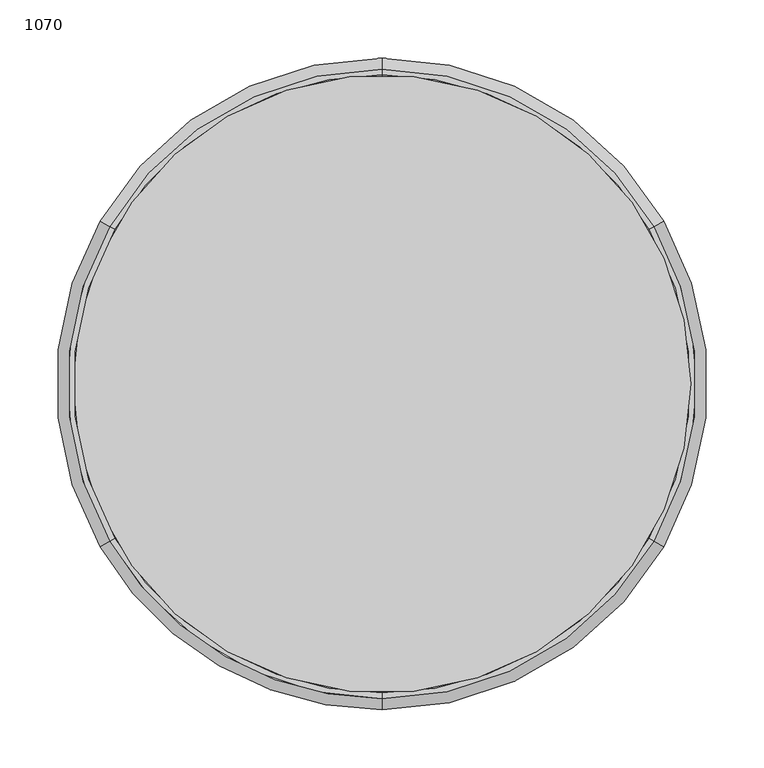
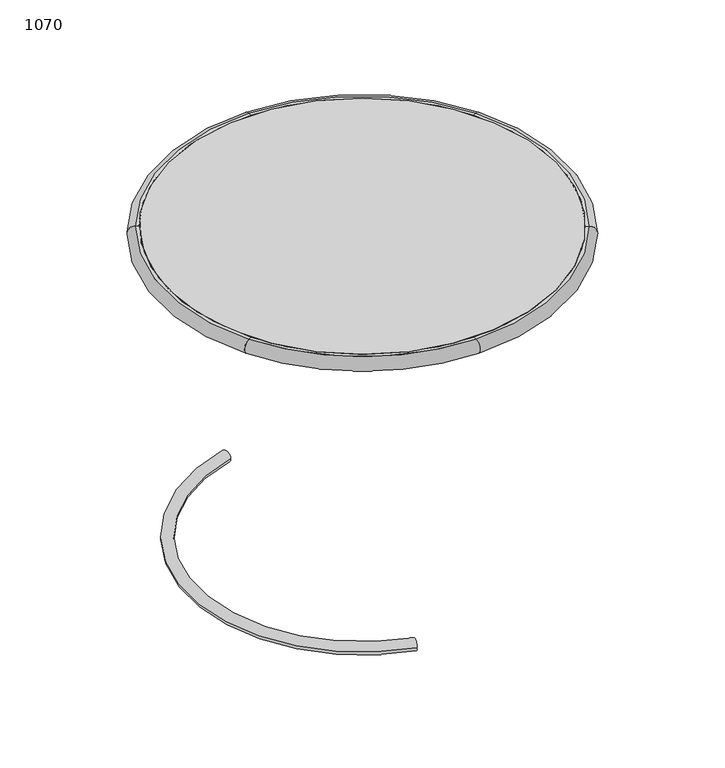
"""IFC4 building model written with IfcOpenShell, lengths in millimetres: proxy geometry, 1070."""

from ifc_helpers import new_model, si_unit, point, frame, origin, origin_2d, place, context, project, spatial, polyline, circle_curve, ellipse_curve, trimmed, segment, composite_curve, outline, extrude, source, transform, mapped, element, save
from ifc_brep_helpers import plane_surface, cylinder_surface, revolved_surface, advanced_brep


def proxy_1070_91a97d15(model_context):
    return source(origin(), model_context, "Body", "SolidModel", [
        advanced_brep(
        [(-233.7186058, 134.9375, -82.55), (-233.7186058, 134.9375, -101.6), (-233.7186058, -134.9375, -101.6), (-233.7186058, -134.9375, -82.55), (-229.5941599, -132.55625, -82.55), (-229.5941599, 132.55625, -82.55), (-229.5941599, -132.55625, -101.6), (-229.5941599, -132.55625, -92.075), (-226.8445292, -130.96875, -92.075), (-226.8445292, -130.96875, -85.725), (-229.5941599, -132.55625, -85.725), (-229.5941599, 132.55625, -92.075), (-226.8445292, 130.96875, -92.075), (-226.8445292, 130.96875, -85.725), (-229.5941599, 132.55625, -85.725), (-229.5941599, 132.55625, -101.6)],
        [
            (0, 1, circle_curve(frame((-233.7186058, 134.9375, -92.075), z_axis=(-0.5000000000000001, -0.8660254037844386, 0.0), x_axis=(-0.8660254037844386, 0.5000000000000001, 0.0)), 9.525)),
            (1, 2, circle_curve(frame((0.0, 0.0, -101.6), z_axis=(0.0, 0.0, 1.0), x_axis=(-0.8660254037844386, 0.5000000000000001, 0.0)), 269.875)),
            (2, 3, circle_curve(frame((-233.7186058, -134.9375, -92.075), z_axis=(-0.49999999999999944, 0.8660254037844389, 0.0), x_axis=(-0.8660254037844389, -0.49999999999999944, 0.0)), 9.525)),
            (3, 0, circle_curve(frame((0.0, 0.0, -82.55), z_axis=(0.0, 0.0, -1.0), x_axis=(-0.8660254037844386, 0.5000000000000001, 0.0)), 269.875)),
            (3, 4),
            (4, 5, circle_curve(frame((0.0, 0.0, -82.55), z_axis=(0.0, 0.0, -1.0), x_axis=(0.49999999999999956, -0.8660254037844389, 0.0)), 265.1125)),
            (5, 0),
            (2, 6),
            (6, 7),
            (7, 8),
            (8, 9),
            (9, 10),
            (10, 4),
            (7, 11, circle_curve(frame((0.0, 0.0, -92.075), z_axis=(0.0, 0.0, -1.0), x_axis=(0.49999999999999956, -0.8660254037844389, 0.0)), 265.1125)),
            (11, 12),
            (12, 8, circle_curve(frame((0.0, 0.0, -92.075), z_axis=(0.0, 0.0, 1.0), x_axis=(0.8660254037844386, -0.5000000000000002, 0.0)), 261.9375)),
            (12, 13),
            (13, 9, circle_curve(frame((0.0, 0.0, -85.725), z_axis=(0.0, 0.0, 1.0), x_axis=(0.8660254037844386, -0.5000000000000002, 0.0)), 261.9375)),
            (13, 14),
            (14, 10, circle_curve(frame((0.0, 0.0, -85.725), z_axis=(0.0, 0.0, 1.0), x_axis=(0.49999999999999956, -0.8660254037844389, 0.0)), 265.1125)),
            (6, 15, circle_curve(frame((0.0, 0.0, -101.6), z_axis=(0.0, 0.0, -1.0), x_axis=(0.49999999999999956, -0.8660254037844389, 0.0)), 265.1125)),
            (15, 11),
            (5, 14),
            (15, 1),
        ],
        [
            revolved_surface(trimmed(ellipse_curve(frame((-233.7186058, 134.9375, -92.075), z_axis=(0.5000000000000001, 0.8660254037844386, 0.0), x_axis=(-0.8660254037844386, 0.5000000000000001, 0.0)), 9.525, 9.525), [point((-233.7186058, 134.9375, -101.6))], [point((-233.7186058, 134.9375, -82.55))], True, "CARTESIAN"), (0.0, 0.0, -92.075), (0.0, 0.0, 1.0)),
            plane_surface(frame((-247.1230553, 3.3734375, -82.55), z_axis=(0.0, 0.0, 1.0), x_axis=(-0.8660254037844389, -0.4999999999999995, 0.0))),
            plane_surface(frame((-252.9660204, -146.05, -101.6), z_axis=(0.4999999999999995, -0.8660254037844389, 0.0), x_axis=(0.8660254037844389, 0.4999999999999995, 0.0))),
            plane_surface(frame((-226.8445292, -130.96875, -92.075), z_axis=(0.0, 0.0, -1.0), x_axis=(0.8660254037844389, 0.4999999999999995, 0.0))),
            revolved_surface(polyline([(226.84452920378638, -130.96875000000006, -92.075), (226.84452920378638, -130.96875000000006, -85.725)]), (0.0, 0.0, -88.9), (0.0, 0.0, -1.0)),
            plane_surface(frame((-229.5941599, -132.55625, -85.725), z_axis=(0.0, 0.0, 1.0), x_axis=(-0.8660254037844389, -0.4999999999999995, 0.0))),
            revolved_surface(polyline([(132.5562499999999, -229.59415986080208, -92.075), (132.5562499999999, -229.59415986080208, -101.6)]), (0.0, 0.0, -101.6), (0.0, 0.0, 1.0)),
            plane_surface(frame((-229.5941599, 132.55625, -101.6), z_axis=(0.5000000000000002, 0.8660254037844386, 0.0), x_axis=(-0.8660254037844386, 0.5000000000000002, 0.0))),
            revolved_surface(polyline([(132.5562499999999, -229.59415986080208, -82.55), (132.5562499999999, -229.59415986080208, -85.725)]), (0.0, 0.0, -101.6), (0.0, 0.0, 1.0)),
            plane_surface(frame((-247.1230553, 3.3734375, -101.6), z_axis=(0.0, 0.0, -1.0), x_axis=(-0.8660254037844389, -0.4999999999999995, 0.0))),
        ],
        [
            (0, [[1, 2, 3, 4]]),
            (1, [[-4, 5, 6, 7]]),
            (2, [[-3, 8, 9, 10, 11, 12, 13, -5]]),
            (3, [[-10, 14, 15, 16]]),
            (4, [[-11, -16, 17, 18]]),
            (5, [[-12, -18, 19, 20]]),
            (6, [[-14, -9, 21, 22]]),
            (7, [[-1, -7, 23, -19, -17, -15, -22, 24]]),
            (8, [[-20, -23, -6, -13]]),
            (9, [[-2, -24, -21, -8]]),
        ],
    ),
        extrude(outline(composite_curve([segment(trimmed(circle_curve(origin_2d(), 265.1125), [point((265.1125, 0.0))], [point((-265.1125, 0.0))], False, "CARTESIAN"), True, "CONTINUOUS"), segment(trimmed(circle_curve(origin_2d(), 265.1125), [point((-265.1125, 0.0))], [point((265.1125, 0.0))], False, "CARTESIAN"), True, "CONTINUOUS")], self_intersect=False)), frame((0.0, 0.0, -83.34375), z_axis=(0.0, 0.0, 1.0), x_axis=(1.0, 0.0, 0.0)), (0.0, 0.0, 1.0), 0.79375),
        extrude(outline(composite_curve([segment(trimmed(circle_curve(origin_2d(), 265.1125), [point((265.1125, 0.0))], [point((-265.1125, 0.0))], False, "CARTESIAN"), True, "CONTINUOUS"), segment(trimmed(circle_curve(origin_2d(), 265.1125), [point((-265.1125, 0.0))], [point((265.1125, 0.0))], False, "CARTESIAN"), True, "CONTINUOUS")], self_intersect=False)), frame((0.0, 0.0, -101.6), z_axis=(0.0, 0.0, 1.0), x_axis=(1.0, 0.0, 0.0)), (0.0, 0.0, 1.0), 0.79375),
        advanced_brep(
        [(0.0, 269.875, -82.55), (0.0, 269.875, -101.6), (-233.7186058, 134.9375, -101.6), (-233.7186058, 134.9375, -82.55), (-229.5941599, 132.55625, -82.55), (0.0, 265.1125, -82.55), (-229.5941599, 132.55625, -101.6), (-229.5941599, 132.55625, -92.075), (-226.8445292, 130.96875, -92.075), (-226.8445292, 130.96875, -85.725), (-229.5941599, 132.55625, -85.725), (0.0, 265.1125, -92.075), (0.0, 261.9375, -92.075), (0.0, 261.9375, -85.725), (0.0, 265.1125, -85.725), (0.0, 265.1125, -101.6)],
        [
            (0, 1, circle_curve(frame((0.0, 269.875, -92.075), z_axis=(-1.0, 0.0, 0.0), x_axis=(0.0, 1.0, 0.0)), 9.525)),
            (1, 2, circle_curve(frame((0.0, 0.0, -101.6), z_axis=(0.0, 0.0, 1.0), x_axis=(0.0, 1.0, 0.0)), 269.875)),
            (2, 3, circle_curve(frame((-233.7186058, 134.9375, -92.075), z_axis=(0.5000000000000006, 0.8660254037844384, 0.0), x_axis=(-0.8660254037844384, 0.5000000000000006, 0.0)), 9.525)),
            (3, 0, circle_curve(frame((0.0, 0.0, -82.55), z_axis=(0.0, 0.0, -1.0), x_axis=(0.0, 1.0, 0.0)), 269.875)),
            (3, 4),
            (4, 5, circle_curve(frame((0.0, 0.0, -82.55), z_axis=(0.0, 0.0, -1.0), x_axis=(-0.5000000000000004, -0.8660254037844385, 0.0)), 265.1125)),
            (5, 0),
            (2, 6),
            (6, 7),
            (7, 8),
            (8, 9),
            (9, 10),
            (10, 4),
            (7, 11, circle_curve(frame((0.0, 0.0, -92.075), z_axis=(0.0, 0.0, -1.0), x_axis=(-0.5000000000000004, -0.8660254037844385, 0.0)), 265.1125)),
            (11, 12),
            (12, 8, circle_curve(frame((0.0, 0.0, -92.075), z_axis=(0.0, 0.0, 1.0), x_axis=(0.0, -1.0, 0.0)), 261.9375)),
            (12, 13),
            (13, 9, circle_curve(frame((0.0, 0.0, -85.725), z_axis=(0.0, 0.0, 1.0), x_axis=(0.0, -1.0, 0.0)), 261.9375)),
            (13, 14),
            (14, 10, circle_curve(frame((0.0, 0.0, -85.725), z_axis=(0.0, 0.0, 1.0), x_axis=(-0.5000000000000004, -0.8660254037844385, 0.0)), 265.1125)),
            (6, 15, circle_curve(frame((0.0, 0.0, -101.6), z_axis=(0.0, 0.0, -1.0), x_axis=(-0.5000000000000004, -0.8660254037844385, 0.0)), 265.1125)),
            (15, 11),
            (5, 14),
            (15, 1),
        ],
        [
            revolved_surface(trimmed(ellipse_curve(frame((0.0, 269.875, -92.075), z_axis=(1.0, 0.0, 0.0), x_axis=(0.0, 1.0, 0.0)), 9.525, 9.525), [point((0.0, 269.875, -101.6))], [point((0.0, 269.875, -82.55))], True, "CARTESIAN"), (0.0, 0.0, -92.075), (0.0, 0.0, 1.0)),
            plane_surface(frame((-120.6400451, 215.7015625, -82.55), z_axis=(0.0, 0.0, 1.0), x_axis=(-0.8660254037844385, 0.5000000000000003, 0.0))),
            plane_surface(frame((-252.9660204, 146.05, -101.6), z_axis=(-0.5000000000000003, -0.8660254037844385, 0.0), x_axis=(0.8660254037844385, -0.5000000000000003, 0.0))),
            plane_surface(frame((-226.8445292, 130.96875, -92.075), z_axis=(0.0, 0.0, -1.0), x_axis=(0.8660254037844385, -0.5000000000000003, 0.0))),
            revolved_surface(polyline([(0.0, -261.9375, -92.075), (0.0, -261.9375, -85.725)]), (0.0, 0.0, -88.9), (0.0, 0.0, -1.0)),
            plane_surface(frame((-229.5941599, 132.55625, -85.725), z_axis=(0.0, 0.0, 1.0), x_axis=(-0.8660254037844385, 0.5000000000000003, 0.0))),
            revolved_surface(polyline([(-132.55625000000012, -229.59415986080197, -92.075), (-132.55625000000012, -229.59415986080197, -101.6)]), (0.0, 0.0, -101.6), (0.0, 0.0, 1.0)),
            plane_surface(frame((0.0, 265.1125, -101.6), z_axis=(1.0, 0.0, 0.0), x_axis=(0.0, 1.0, 0.0))),
            revolved_surface(polyline([(-132.55625000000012, -229.59415986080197, -82.55), (-132.55625000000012, -229.59415986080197, -85.725)]), (0.0, 0.0, -101.6), (0.0, 0.0, 1.0)),
            plane_surface(frame((-120.6400451, 215.7015625, -101.6), z_axis=(0.0, 0.0, -1.0), x_axis=(-0.8660254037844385, 0.5000000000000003, 0.0))),
        ],
        [
            (0, [[1, 2, 3, 4]]),
            (1, [[-4, 5, 6, 7]]),
            (2, [[-3, 8, 9, 10, 11, 12, 13, -5]]),
            (3, [[-10, 14, 15, 16]]),
            (4, [[-11, -16, 17, 18]]),
            (5, [[-12, -18, 19, 20]]),
            (6, [[-14, -9, 21, 22]]),
            (7, [[-1, -7, 23, -19, -17, -15, -22, 24]]),
            (8, [[-20, -23, -6, -13]]),
            (9, [[-2, -24, -21, -8]]),
        ],
    ),
        advanced_brep(
        [(-233.7186058, -134.9375, -82.55), (-233.7186058, -134.9375, -101.6), (0.0, -269.875, -101.6), (0.0, -269.875, -82.55), (0.0, -265.1125, -82.55), (-229.5941599, -132.55625, -82.55), (0.0, -265.1125, -101.6), (0.0, -265.1125, -92.075), (0.0, -261.9375, -92.075), (0.0, -261.9375, -85.725), (0.0, -265.1125, -85.725), (-229.5941599, -132.55625, -92.075), (-226.8445292, -130.96875, -92.075), (-226.8445292, -130.96875, -85.725), (-229.5941599, -132.55625, -85.725), (-229.5941599, -132.55625, -101.6)],
        [
            (0, 1, circle_curve(frame((-233.7186058, -134.9375, -92.075), z_axis=(0.4999999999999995, -0.8660254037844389, 0.0), x_axis=(-0.8660254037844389, -0.4999999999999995, 0.0)), 9.525)),
            (1, 2, circle_curve(frame((0.0, 0.0, -101.6), z_axis=(0.0, 0.0, 1.0), x_axis=(-0.8660254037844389, -0.4999999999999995, 0.0)), 269.875)),
            (2, 3, circle_curve(frame((0.0, -269.875, -92.075), z_axis=(-1.0, 0.0, 0.0), x_axis=(0.0, -1.0, 0.0)), 9.525)),
            (3, 0, circle_curve(frame((0.0, 0.0, -82.55), z_axis=(0.0, 0.0, -1.0), x_axis=(-0.8660254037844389, -0.4999999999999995, 0.0)), 269.875)),
            (3, 4),
            (4, 5, circle_curve(frame((0.0, 0.0, -82.55), z_axis=(0.0, 0.0, -1.0), x_axis=(1.0, 0.0, 0.0)), 265.1125)),
            (5, 0),
            (2, 6),
            (6, 7),
            (7, 8),
            (8, 9),
            (9, 10),
            (10, 4),
            (7, 11, circle_curve(frame((0.0, 0.0, -92.075), z_axis=(0.0, 0.0, -1.0), x_axis=(1.0, 0.0, 0.0)), 265.1125)),
            (11, 12),
            (12, 8, circle_curve(frame((0.0, 0.0, -92.075), z_axis=(0.0, 0.0, 1.0), x_axis=(0.8660254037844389, 0.4999999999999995, 0.0)), 261.9375)),
            (12, 13),
            (13, 9, circle_curve(frame((0.0, 0.0, -85.725), z_axis=(0.0, 0.0, 1.0), x_axis=(0.8660254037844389, 0.4999999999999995, 0.0)), 261.9375)),
            (13, 14),
            (14, 10, circle_curve(frame((0.0, 0.0, -85.725), z_axis=(0.0, 0.0, 1.0), x_axis=(1.0, 0.0, 0.0)), 265.1125)),
            (6, 15, circle_curve(frame((0.0, 0.0, -101.6), z_axis=(0.0, 0.0, -1.0), x_axis=(1.0, 0.0, 0.0)), 265.1125)),
            (15, 11),
            (5, 14),
            (15, 1),
        ],
        [
            revolved_surface(trimmed(ellipse_curve(frame((-233.7186058, -134.9375, -92.075), z_axis=(-0.4999999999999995, 0.8660254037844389, 0.0), x_axis=(-0.8660254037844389, -0.4999999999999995, 0.0)), 9.525, 9.525), [point((-233.7186058, -134.9375, -101.6))], [point((-233.7186058, -134.9375, -82.55))], True, "CARTESIAN"), (0.0, 0.0, -92.075), (0.0, 0.0, 1.0)),
            plane_surface(frame((-126.4830102, -212.328125, -82.55), z_axis=(0.0, 0.0, 1.0), x_axis=(0.0, -1.0, 0.0))),
            plane_surface(frame((0.0, -292.1, -101.6), z_axis=(1.0, 0.0, 0.0), x_axis=(0.0, 1.0, 0.0))),
            plane_surface(frame((0.0, -261.9375, -92.075), z_axis=(0.0, 0.0, -1.0), x_axis=(0.0, 1.0, 0.0))),
            revolved_surface(polyline([(226.84452920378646, 130.96874999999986, -92.075), (226.84452920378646, 130.96874999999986, -85.725)]), (0.0, 0.0, -88.9), (0.0, 0.0, -1.0)),
            plane_surface(frame((0.0, -265.1125, -85.725), z_axis=(0.0, 0.0, 1.0), x_axis=(0.0, -1.0, 0.0))),
            revolved_surface(polyline([(265.1125, 0.0, -92.075), (265.1125, 0.0, -101.6)]), (0.0, 0.0, -101.6), (0.0, 0.0, 1.0)),
            plane_surface(frame((-229.5941599, -132.55625, -101.6), z_axis=(-0.4999999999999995, 0.8660254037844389, 0.0), x_axis=(-0.8660254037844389, -0.4999999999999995, 0.0))),
            revolved_surface(polyline([(265.1125, 0.0, -82.55), (265.1125, 0.0, -85.725)]), (0.0, 0.0, -101.6), (0.0, 0.0, 1.0)),
            plane_surface(frame((-126.4830102, -212.328125, -101.6), z_axis=(0.0, 0.0, -1.0), x_axis=(0.0, -1.0, 0.0))),
        ],
        [
            (0, [[1, 2, 3, 4]]),
            (1, [[-4, 5, 6, 7]]),
            (2, [[-3, 8, 9, 10, 11, 12, 13, -5]]),
            (3, [[-10, 14, 15, 16]]),
            (4, [[-11, -16, 17, 18]]),
            (5, [[-12, -18, 19, 20]]),
            (6, [[-14, -9, 21, 22]]),
            (7, [[-1, -7, 23, -19, -17, -15, -22, 24]]),
            (8, [[-20, -23, -6, -13]]),
            (9, [[-2, -24, -21, -8]]),
        ],
    ),
        advanced_brep(
        [(233.7186058, -134.9375, -82.55), (233.7186058, -134.9375, -101.6), (233.7186058, 134.9375, -101.6), (233.7186058, 134.9375, -82.55), (229.5941599, 132.55625, -82.55), (229.5941599, -132.55625, -82.55), (229.5941599, 132.55625, -101.6), (229.5941599, 132.55625, -92.075), (226.8445292, 130.96875, -92.075), (226.8445292, 130.96875, -85.725), (229.5941599, 132.55625, -85.725), (229.5941599, -132.55625, -92.075), (226.8445292, -130.96875, -92.075), (226.8445292, -130.96875, -85.725), (229.5941599, -132.55625, -85.725), (229.5941599, -132.55625, -101.6)],
        [
            (0, 1, circle_curve(frame((233.7186058, -134.9375, -92.075), z_axis=(0.500000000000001, 0.866025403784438, 0.0), x_axis=(0.866025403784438, -0.500000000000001, 0.0)), 9.525)),
            (1, 2, circle_curve(frame((0.0, 0.0, -101.6), z_axis=(0.0, 0.0, 1.0), x_axis=(0.8660254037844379, -0.5000000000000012, 0.0)), 269.875)),
            (2, 3, circle_curve(frame((233.7186058, 134.9375, -92.075), z_axis=(0.4999999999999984, -0.8660254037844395, 0.0), x_axis=(0.8660254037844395, 0.4999999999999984, 0.0)), 9.525)),
            (3, 0, circle_curve(frame((0.0, 0.0, -82.55), z_axis=(0.0, 0.0, -1.0), x_axis=(0.8660254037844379, -0.5000000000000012, 0.0)), 269.875)),
            (3, 4),
            (4, 5, circle_curve(frame((0.0, 0.0, -82.55), z_axis=(0.0, 0.0, -1.0), x_axis=(-0.4999999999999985, 0.8660254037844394, 0.0)), 265.1125)),
            (5, 0),
            (2, 6),
            (6, 7),
            (7, 8),
            (8, 9),
            (9, 10),
            (10, 4),
            (7, 11, circle_curve(frame((0.0, 0.0, -92.075), z_axis=(0.0, 0.0, -1.0), x_axis=(-0.4999999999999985, 0.8660254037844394, 0.0)), 265.1125)),
            (11, 12),
            (12, 8, circle_curve(frame((0.0, 0.0, -92.075), z_axis=(0.0, 0.0, 1.0), x_axis=(-0.8660254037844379, 0.500000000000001, 0.0)), 261.9375)),
            (12, 13),
            (13, 9, circle_curve(frame((0.0, 0.0, -85.725), z_axis=(0.0, 0.0, 1.0), x_axis=(-0.8660254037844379, 0.500000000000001, 0.0)), 261.9375)),
            (13, 14),
            (14, 10, circle_curve(frame((0.0, 0.0, -85.725), z_axis=(0.0, 0.0, 1.0), x_axis=(-0.4999999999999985, 0.8660254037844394, 0.0)), 265.1125)),
            (6, 15, circle_curve(frame((0.0, 0.0, -101.6), z_axis=(0.0, 0.0, -1.0), x_axis=(-0.4999999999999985, 0.8660254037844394, 0.0)), 265.1125)),
            (15, 11),
            (5, 14),
            (15, 1),
        ],
        [
            revolved_surface(trimmed(ellipse_curve(frame((233.7186058, -134.9375, -92.075), z_axis=(-0.5000000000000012, -0.8660254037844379, 0.0), x_axis=(0.8660254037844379, -0.5000000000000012, 0.0)), 9.525, 9.525), [point((233.7186058, -134.9375, -101.6))], [point((233.7186058, -134.9375, -82.55))], True, "CARTESIAN"), (0.0, 0.0, -92.075), (0.0, 0.0, 1.0)),
            plane_surface(frame((247.1230553, -3.3734375, -82.55), z_axis=(0.0, 0.0, 1.0), x_axis=(0.8660254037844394, 0.49999999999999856, 0.0))),
            plane_surface(frame((252.9660204, 146.05, -101.6), z_axis=(-0.49999999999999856, 0.8660254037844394, 0.0), x_axis=(-0.8660254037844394, -0.49999999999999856, 0.0))),
            plane_surface(frame((226.8445292, 130.96875, -92.075), z_axis=(0.0, 0.0, -1.0), x_axis=(-0.8660254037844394, -0.49999999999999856, 0.0))),
            revolved_surface(polyline([(-226.8445292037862, 130.96875000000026, -92.075), (-226.8445292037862, 130.96875000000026, -85.725)]), (0.0, 0.0, -88.9), (0.0, 0.0, -1.0)),
            plane_surface(frame((229.5941599, 132.55625, -85.725), z_axis=(0.0, 0.0, 1.0), x_axis=(0.8660254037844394, 0.49999999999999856, 0.0))),
            revolved_surface(polyline([(-132.5562499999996, 229.5941598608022, -92.075), (-132.5562499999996, 229.5941598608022, -101.6)]), (0.0, 0.0, -101.6), (0.0, 0.0, 1.0)),
            plane_surface(frame((229.5941599, -132.55625, -101.6), z_axis=(-0.500000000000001, -0.866025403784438, 0.0), x_axis=(0.866025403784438, -0.500000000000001, 0.0))),
            revolved_surface(polyline([(-132.5562499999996, 229.5941598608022, -82.55), (-132.5562499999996, 229.5941598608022, -85.725)]), (0.0, 0.0, -101.6), (0.0, 0.0, 1.0)),
            plane_surface(frame((247.1230553, -3.3734375, -101.6), z_axis=(0.0, 0.0, -1.0), x_axis=(0.8660254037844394, 0.49999999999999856, 0.0))),
        ],
        [
            (0, [[1, 2, 3, 4]]),
            (1, [[-4, 5, 6, 7]]),
            (2, [[-3, 8, 9, 10, 11, 12, 13, -5]]),
            (3, [[-10, 14, 15, 16]]),
            (4, [[-11, -16, 17, 18]]),
            (5, [[-12, -18, 19, 20]]),
            (6, [[-14, -9, 21, 22]]),
            (7, [[-1, -7, 23, -19, -17, -15, -22, 24]]),
            (8, [[-20, -23, -6, -13]]),
            (9, [[-2, -24, -21, -8]]),
        ],
    ),
        advanced_brep(
        [(233.7186058, 134.9375, -82.55), (233.7186058, 134.9375, -101.6), (0.0, 269.875, -101.6), (0.0, 269.875, -82.55), (0.0, 265.1125, -82.55), (229.5941599, 132.55625, -82.55), (0.0, 265.1125, -101.6), (0.0, 265.1125, -92.075), (0.0, 261.9375, -92.075), (0.0, 261.9375, -85.725), (0.0, 265.1125, -85.725), (229.5941599, 132.55625, -92.075), (226.8445292, 130.96875, -92.075), (226.8445292, 130.96875, -85.725), (229.5941599, 132.55625, -85.725), (229.5941599, 132.55625, -101.6)],
        [
            (0, 1, circle_curve(frame((233.7186058, 134.9375, -92.075), z_axis=(-0.5000000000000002, 0.8660254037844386, 0.0), x_axis=(0.8660254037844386, 0.5000000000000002, 0.0)), 9.525)),
            (1, 2, circle_curve(frame((0.0, 0.0, -101.6), z_axis=(0.0, 0.0, 1.0), x_axis=(0.8660254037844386, 0.5000000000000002, 0.0)), 269.875)),
            (2, 3, circle_curve(frame((0.0, 269.875, -92.075), z_axis=(1.0, 0.0, 0.0), x_axis=(0.0, 1.0, 0.0)), 9.525)),
            (3, 0, circle_curve(frame((0.0, 0.0, -82.55), z_axis=(0.0, 0.0, -1.0), x_axis=(0.8660254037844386, 0.5000000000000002, 0.0)), 269.875)),
            (3, 4),
            (4, 5, circle_curve(frame((0.0, 0.0, -82.55), z_axis=(0.0, 0.0, -1.0), x_axis=(-1.0, 0.0, 0.0)), 265.1125)),
            (5, 0),
            (2, 6),
            (6, 7),
            (7, 8),
            (8, 9),
            (9, 10),
            (10, 4),
            (7, 11, circle_curve(frame((0.0, 0.0, -92.075), z_axis=(0.0, 0.0, -1.0), x_axis=(-1.0, 0.0, 0.0)), 265.1125)),
            (11, 12),
            (12, 8, circle_curve(frame((0.0, 0.0, -92.075), z_axis=(0.0, 0.0, 1.0), x_axis=(-0.8660254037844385, -0.5000000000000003, 0.0)), 261.9375)),
            (12, 13),
            (13, 9, circle_curve(frame((0.0, 0.0, -85.725), z_axis=(0.0, 0.0, 1.0), x_axis=(-0.8660254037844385, -0.5000000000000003, 0.0)), 261.9375)),
            (13, 14),
            (14, 10, circle_curve(frame((0.0, 0.0, -85.725), z_axis=(0.0, 0.0, 1.0), x_axis=(-1.0, 0.0, 0.0)), 265.1125)),
            (6, 15, circle_curve(frame((0.0, 0.0, -101.6), z_axis=(0.0, 0.0, -1.0), x_axis=(-1.0, 0.0, 0.0)), 265.1125)),
            (15, 11),
            (5, 14),
            (15, 1),
        ],
        [
            revolved_surface(trimmed(ellipse_curve(frame((233.7186058, 134.9375, -92.075), z_axis=(0.5000000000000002, -0.8660254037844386, 0.0), x_axis=(0.8660254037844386, 0.5000000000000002, 0.0)), 9.525, 9.525), [point((233.7186058, 134.9375, -101.6))], [point((233.7186058, 134.9375, -82.55))], True, "CARTESIAN"), (0.0, 0.0, -92.075), (0.0, 0.0, 1.0)),
            plane_surface(frame((126.4830102, 212.328125, -82.55), z_axis=(0.0, 0.0, 1.0), x_axis=(0.0, 1.0, 0.0))),
            plane_surface(frame((0.0, 292.1, -101.6), z_axis=(-1.0, 0.0, 0.0), x_axis=(0.0, -1.0, 0.0))),
            plane_surface(frame((0.0, 261.9375, -92.075), z_axis=(0.0, 0.0, -1.0), x_axis=(0.0, -1.0, 0.0))),
            revolved_surface(polyline([(-226.84452920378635, -130.96875000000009, -92.075), (-226.84452920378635, -130.96875000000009, -85.725)]), (0.0, 0.0, -88.9), (0.0, 0.0, -1.0)),
            plane_surface(frame((0.0, 265.1125, -85.725), z_axis=(0.0, 0.0, 1.0), x_axis=(0.0, 1.0, 0.0))),
            revolved_surface(polyline([(-265.1125, 0.0, -92.075), (-265.1125, 0.0, -101.6)]), (0.0, 0.0, -101.6), (0.0, 0.0, 1.0)),
            plane_surface(frame((229.5941599, 132.55625, -101.6), z_axis=(0.5000000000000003, -0.8660254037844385, 0.0), x_axis=(0.8660254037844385, 0.5000000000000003, 0.0))),
            revolved_surface(polyline([(-265.1125, 0.0, -82.55), (-265.1125, 0.0, -85.725)]), (0.0, 0.0, -101.6), (0.0, 0.0, 1.0)),
            plane_surface(frame((126.4830102, 212.328125, -101.6), z_axis=(0.0, 0.0, -1.0), x_axis=(0.0, 1.0, 0.0))),
        ],
        [
            (0, [[1, 2, 3, 4]]),
            (1, [[-4, 5, 6, 7]]),
            (2, [[-3, 8, 9, 10, 11, 12, 13, -5]]),
            (3, [[-10, 14, 15, 16]]),
            (4, [[-11, -16, 17, 18]]),
            (5, [[-12, -18, 19, 20]]),
            (6, [[-14, -9, 21, 22]]),
            (7, [[-1, -7, 23, -19, -17, -15, -22, 24]]),
            (8, [[-20, -23, -6, -13]]),
            (9, [[-2, -24, -21, -8]]),
        ],
    ),
        advanced_brep(
        [(0.0, -269.875, -82.55), (0.0, -269.875, -101.6), (233.7186058, -134.9375, -101.6), (233.7186058, -134.9375, -82.55), (229.5941599, -132.55625, -82.55), (0.0, -265.1125, -82.55), (229.5941599, -132.55625, -101.6), (229.5941599, -132.55625, -92.075), (226.8445292, -130.96875, -92.075), (226.8445292, -130.96875, -85.725), (229.5941599, -132.55625, -85.725), (0.0, -265.1125, -92.075), (0.0, -261.9375, -92.075), (0.0, -261.9375, -85.725), (0.0, -265.1125, -85.725), (0.0, -265.1125, -101.6)],
        [
            (0, 1, circle_curve(frame((0.0, -269.875, -92.075), z_axis=(1.0, 0.0, 0.0), x_axis=(0.0, -1.0, 0.0)), 9.525)),
            (1, 2, circle_curve(frame((0.0, 0.0, -101.6), z_axis=(0.0, 0.0, 1.0), x_axis=(0.0, -1.0, 0.0)), 269.875)),
            (2, 3, circle_curve(frame((233.7186058, -134.9375, -92.075), z_axis=(-0.5000000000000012, -0.8660254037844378, 0.0), x_axis=(0.8660254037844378, -0.5000000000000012, 0.0)), 9.525)),
            (3, 0, circle_curve(frame((0.0, 0.0, -82.55), z_axis=(0.0, 0.0, -1.0), x_axis=(0.0, -1.0, 0.0)), 269.875)),
            (3, 4),
            (4, 5, circle_curve(frame((0.0, 0.0, -82.55), z_axis=(0.0, 0.0, -1.0), x_axis=(0.5000000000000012, 0.8660254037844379, 0.0)), 265.1125)),
            (5, 0),
            (2, 6),
            (6, 7),
            (7, 8),
            (8, 9),
            (9, 10),
            (10, 4),
            (7, 11, circle_curve(frame((0.0, 0.0, -92.075), z_axis=(0.0, 0.0, -1.0), x_axis=(0.5000000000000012, 0.8660254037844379, 0.0)), 265.1125)),
            (11, 12),
            (12, 8, circle_curve(frame((0.0, 0.0, -92.075), z_axis=(0.0, 0.0, 1.0), x_axis=(0.0, 0.9999999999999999, 0.0)), 261.9375)),
            (12, 13),
            (13, 9, circle_curve(frame((0.0, 0.0, -85.725), z_axis=(0.0, 0.0, 1.0), x_axis=(0.0, 0.9999999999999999, 0.0)), 261.9375)),
            (13, 14),
            (14, 10, circle_curve(frame((0.0, 0.0, -85.725), z_axis=(0.0, 0.0, 1.0), x_axis=(0.5000000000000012, 0.8660254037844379, 0.0)), 265.1125)),
            (6, 15, circle_curve(frame((0.0, 0.0, -101.6), z_axis=(0.0, 0.0, -1.0), x_axis=(0.5000000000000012, 0.8660254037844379, 0.0)), 265.1125)),
            (15, 11),
            (5, 14),
            (15, 1),
        ],
        [
            revolved_surface(trimmed(ellipse_curve(frame((0.0, -269.875, -92.075), z_axis=(-1.0, 0.0, 0.0), x_axis=(0.0, -1.0, 0.0)), 9.525, 9.525), [point((0.0, -269.875, -101.6))], [point((0.0, -269.875, -82.55))], True, "CARTESIAN"), (0.0, 0.0, -92.075), (0.0, 0.0, 1.0)),
            plane_surface(frame((120.6400451, -215.7015625, -82.55), z_axis=(0.0, 0.0, 1.0), x_axis=(0.8660254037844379, -0.5000000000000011, 0.0))),
            plane_surface(frame((252.9660204, -146.05, -101.6), z_axis=(0.5000000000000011, 0.8660254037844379, 0.0), x_axis=(-0.8660254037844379, 0.5000000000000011, 0.0))),
            plane_surface(frame((226.8445292, -130.96875, -92.075), z_axis=(0.0, 0.0, -1.0), x_axis=(-0.8660254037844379, 0.5000000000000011, 0.0))),
            revolved_surface(polyline([(0.0, 261.93749999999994, -92.075), (0.0, 261.93749999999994, -85.725)]), (0.0, 0.0, -88.9), (0.0, 0.0, -0.9999999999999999)),
            plane_surface(frame((229.5941599, -132.55625, -85.725), z_axis=(0.0, 0.0, 1.0), x_axis=(0.8660254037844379, -0.5000000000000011, 0.0))),
            revolved_surface(polyline([(132.55625000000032, 229.59415986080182, -92.075), (132.55625000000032, 229.59415986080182, -101.6)]), (0.0, 0.0, -101.6), (0.0, 0.0, 1.0)),
            plane_surface(frame((0.0, -265.1125, -101.6), z_axis=(-1.0, 0.0, 0.0), x_axis=(0.0, -1.0, 0.0))),
            revolved_surface(polyline([(132.55625000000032, 229.59415986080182, -82.55), (132.55625000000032, 229.59415986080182, -85.725)]), (0.0, 0.0, -101.6), (0.0, 0.0, 1.0)),
            plane_surface(frame((120.6400451, -215.7015625, -101.6), z_axis=(0.0, 0.0, -1.0), x_axis=(0.8660254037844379, -0.5000000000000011, 0.0))),
        ],
        [
            (0, [[1, 2, 3, 4]]),
            (1, [[-4, 5, 6, 7]]),
            (2, [[-3, 8, 9, 10, 11, 12, 13, -5]]),
            (3, [[-10, 14, 15, 16]]),
            (4, [[-11, -16, 17, 18]]),
            (5, [[-12, -18, 19, 20]]),
            (6, [[-14, -9, 21, 22]]),
            (7, [[-1, -7, 23, -19, -17, -15, -22, 24]]),
            (8, [[-20, -23, -6, -13]]),
            (9, [[-2, -24, -21, -8]]),
        ],
    ),
        advanced_brep(
        [(-190.5, 0.0, -107.15625), (-190.5, 0.0, -101.6), (190.5, 0.0, -101.6), (190.5, 0.0, -107.15625), (0.0, 190.5, -107.15625), (0.0, -177.8, -119.85625), (0.0, -190.5, -107.15625), (0.0, 177.8, -119.85625), (-177.8, 0.0, -119.85625)],
        [
            (0, 1),
            (1, 2, circle_curve(frame((0.0, 0.0, -101.6), z_axis=(0.0, 0.0, -1.0), x_axis=(-1.0, 0.0, 0.0)), 190.5)),
            (2, 3),
            (3, 4, circle_curve(frame((0.0, 0.0, -107.15625), z_axis=(0.0, 0.0, 1.0), x_axis=(-1.0, 0.0, 0.0)), 190.5)),
            (4, 0, circle_curve(frame((0.0, 0.0, -107.15625), z_axis=(0.0, 0.0, 1.0), x_axis=(-1.0, 0.0, 0.0)), 190.5)),
            (5, 6, circle_curve(frame((0.0, -177.8, -107.15625), z_axis=(-1.0, 0.0, 0.0), x_axis=(0.0, -1.0, 0.0)), 12.7)),
            (6, 0, circle_curve(frame((0.0, 0.0, -107.15625), z_axis=(0.0, 0.0, -1.0), x_axis=(0.0, 1.0, 0.0)), 190.5)),
            (4, 7, circle_curve(frame((0.0, 177.8, -107.15625), z_axis=(-1.0, 0.0, 0.0), x_axis=(0.0, 1.0, 0.0)), 12.7)),
            (7, 8, circle_curve(frame((0.0, 0.0, -119.85625), z_axis=(0.0, 0.0, 1.0), x_axis=(0.0, 1.0, 0.0)), 177.8)),
            (8, 5, circle_curve(frame((0.0, 0.0, -119.85625), z_axis=(0.0, 0.0, 1.0), x_axis=(0.0, 1.0, 0.0)), 177.8)),
            (5, 7, circle_curve(frame((0.0, 0.0, -119.85625), z_axis=(0.0, 0.0, 1.0), x_axis=(0.0, -1.0, 0.0)), 177.8)),
            (3, 6, circle_curve(frame((0.0, 0.0, -107.15625), z_axis=(0.0, 0.0, -1.0), x_axis=(0.0, -1.0, 0.0)), 190.5)),
            (2, 1, circle_curve(frame((0.0, 0.0, -101.6), z_axis=(0.0, 0.0, -1.0), x_axis=(-1.0, 0.0, 0.0)), 190.5)),
        ],
        [
            cylinder_surface(frame((0.0, 0.0, -119.85625), z_axis=(0.0, 0.0, 1.0), x_axis=(-1.0, 0.0, 0.0)), 190.5),
            revolved_surface(trimmed(ellipse_curve(frame((0.0, 177.8, -107.15625), z_axis=(1.0, 0.0, 0.0), x_axis=(0.0, 1.0, 0.0)), 12.7, 12.7), [point((0.0, 177.8, -119.85625))], [point((0.0, 190.5, -107.15625))], True, "CARTESIAN"), (0.0, 0.0, -107.15625), (0.0, 0.0, 1.0)),
            revolved_surface(trimmed(ellipse_curve(frame((0.0, -177.8, -107.15625), z_axis=(-1.0, 0.0, 0.0), x_axis=(0.0, -1.0, 0.0)), 12.7, 12.7), [point((0.0, -177.8, -119.85625))], [point((0.0, -190.5, -107.15625))], True, "CARTESIAN"), (0.0, 0.0, -107.15625), (0.0, 0.0, 1.0)),
            plane_surface(frame((0.0, 0.0, -119.85625), z_axis=(0.0, 0.0, -1.0), x_axis=(0.0, -1.0, 0.0))),
            plane_surface(frame((0.0, 0.0, -101.6), z_axis=(0.0, 0.0, 1.0), x_axis=(0.0, -1.0, 0.0))),
        ],
        [
            (0, [[1, 2, 3, 4, 5]]),
            (1, [[6, 7, -5, 8, 9, 10]]),
            (2, [[-6, 11, -8, -4, 12]]),
            (0, [[-1, -7, -12, -3, 13]]),
            (3, [[-10, -9, -11]]),
            (4, [[-13, -2]]),
        ],
    ),
        advanced_brep(
        [(0.0, 193.675, -104.775), (0.0, 193.675, -101.6), (0.0, -193.675, -101.6), (0.0, -193.675, -104.775), (-219.075, 2.38125, -101.6), (-219.075, 2.38125, -102.0356852), (-219.075, -2.38125, -102.0356852), (-219.075, -2.38125, -101.6), (-219.075, 4.7625, -104.775), (-219.075, -4.7625, -104.775), (-109.5375, -187.3432653, -101.6), (-109.5375, -187.3432653, -102.0356852), (-109.5375, -192.1057653, -102.0356852), (-109.5375, -192.1057653, -101.6), (-109.5375, -184.9620153, -104.775), (-109.5375, -194.4870153, -104.775), (109.5375, -187.3432653, -101.6), (109.5375, -187.3432653, -102.0356852), (109.5375, -192.1057653, -102.0356852), (109.5375, -192.1057653, -101.6), (109.5375, -184.9620153, -104.775), (109.5375, -194.4870153, -104.775), (219.075, 2.38125, -101.6), (219.075, 2.38125, -102.0356852), (219.075, -2.38125, -102.0356852), (219.075, -2.38125, -101.6), (219.075, 4.7625, -104.775), (219.075, -4.7625, -104.775), (109.5375, 192.1057653, -101.6), (109.5375, 192.1057653, -102.0356852), (109.5375, 187.3432653, -102.0356852), (109.5375, 187.3432653, -101.6), (109.5375, 194.4870153, -104.775), (109.5375, 184.9620153, -104.775), (-109.5375, 192.1057653, -101.6), (-109.5375, 192.1057653, -102.0356852), (-109.5375, 187.3432653, -102.0356852), (-109.5375, 187.3432653, -101.6), (-109.5375, 194.4870153, -104.775), (-109.5375, 184.9620153, -104.775), (-16.271875, 236.404283, -104.775), (-16.271875, 243.9328836, -104.775), (-16.271875, 243.9328836, -101.6), (-16.271875, 236.404283, -101.6), (0.0, 233.863043, -104.775), (0.0, 233.863043, -101.6), (16.271875, 236.404283, -104.775), (16.271875, 236.404283, -101.6), (16.271875, 243.9328836, -104.775), (16.271875, 243.9328836, -101.6), (16.271875, -236.404283, -104.775), (16.271875, -243.9328836, -104.775), (16.271875, -243.9328836, -101.6), (16.271875, -236.404283, -101.6), (0.0, -233.863043, -104.775), (0.0, -233.863043, -101.6), (-16.271875, -236.404283, -104.775), (-16.271875, -236.404283, -101.6), (-16.271875, -243.9328836, -104.775), (-16.271875, -243.9328836, -101.6)],
        [
            (0, 1),
            (1, 2, circle_curve(frame((0.0, 0.0, -101.6), z_axis=(0.0, 0.0, 1.0), x_axis=(0.0, 1.0, 0.0)), 193.675)),
            (2, 3),
            (3, 0, circle_curve(frame((0.0, 0.0, -104.775), z_axis=(0.0, 0.0, -1.0), x_axis=(0.0, 1.0, 0.0)), 193.675)),
            (4, 5),
            (5, 6, circle_curve(frame((-219.075, 0.0, -102.0356852), z_axis=(0.0, 0.0, -1.0), x_axis=(0.0, 1.0, 0.0)), 2.38125)),
            (6, 7),
            (7, 4, circle_curve(frame((-219.075, 0.0, -101.6), z_axis=(0.0, 0.0, 1.0), x_axis=(0.0, 1.0, 0.0)), 2.38125)),
            (5, 8),
            (8, 9, circle_curve(frame((-219.075, 0.0, -104.775), z_axis=(0.0, 0.0, -1.0), x_axis=(0.0, -1.0, 0.0)), 4.7625)),
            (9, 6),
            (10, 11),
            (11, 12, circle_curve(frame((-109.5375, -189.7245153, -102.0356852), z_axis=(0.0, 0.0, -1.0), x_axis=(0.0, 1.0, 0.0)), 2.38125)),
            (12, 13),
            (13, 10, circle_curve(frame((-109.5375, -189.7245153, -101.6), z_axis=(0.0, 0.0, 1.0), x_axis=(0.0, 1.0, 0.0)), 2.38125)),
            (11, 14),
            (14, 15, circle_curve(frame((-109.5375, -189.7245153, -104.775), z_axis=(0.0, 0.0, -1.0), x_axis=(0.0, -1.0, 0.0)), 4.7625)),
            (15, 12),
            (16, 17),
            (17, 18, circle_curve(frame((109.5375, -189.7245153, -102.0356852), z_axis=(0.0, 0.0, -1.0), x_axis=(0.0, 1.0, 0.0)), 2.38125)),
            (18, 19),
            (19, 16, circle_curve(frame((109.5375, -189.7245153, -101.6), z_axis=(0.0, 0.0, 1.0), x_axis=(0.0, 1.0, 0.0)), 2.38125)),
            (17, 20),
            (20, 21, circle_curve(frame((109.5375, -189.7245153, -104.775), z_axis=(0.0, 0.0, -1.0), x_axis=(0.0, -1.0, 0.0)), 4.7625)),
            (21, 18),
            (22, 23),
            (23, 24, circle_curve(frame((219.075, 0.0, -102.0356852), z_axis=(0.0, 0.0, -1.0), x_axis=(0.0, 1.0, 0.0)), 2.38125)),
            (24, 25),
            (25, 22, circle_curve(frame((219.075, 0.0, -101.6), z_axis=(0.0, 0.0, 1.0), x_axis=(0.0, 1.0, 0.0)), 2.38125)),
            (23, 26),
            (26, 27, circle_curve(frame((219.075, 0.0, -104.775), z_axis=(0.0, 0.0, -1.0), x_axis=(0.0, -1.0, 0.0)), 4.7625)),
            (27, 24),
            (28, 29),
            (29, 30, circle_curve(frame((109.5375, 189.7245153, -102.0356852), z_axis=(0.0, 0.0, -1.0), x_axis=(0.0, 1.0, 0.0)), 2.38125)),
            (30, 31),
            (31, 28, circle_curve(frame((109.5375, 189.7245153, -101.6), z_axis=(0.0, 0.0, 1.0), x_axis=(0.0, 1.0, 0.0)), 2.38125)),
            (29, 32),
            (32, 33, circle_curve(frame((109.5375, 189.7245153, -104.775), z_axis=(0.0, 0.0, -1.0), x_axis=(0.0, -1.0, 0.0)), 4.7625)),
            (33, 30),
            (34, 35),
            (35, 36, circle_curve(frame((-109.5375, 189.7245153, -102.0356852), z_axis=(0.0, 0.0, -1.0), x_axis=(0.0, 1.0, 0.0)), 2.38125)),
            (36, 37),
            (37, 34, circle_curve(frame((-109.5375, 189.7245153, -101.6), z_axis=(0.0, 0.0, 1.0), x_axis=(0.0, 1.0, 0.0)), 2.38125)),
            (35, 38),
            (38, 39, circle_curve(frame((-109.5375, 189.7245153, -104.775), z_axis=(0.0, 0.0, -1.0), x_axis=(0.0, -1.0, 0.0)), 4.7625)),
            (39, 36),
            (35, 36, circle_curve(frame((-109.5375, 189.7245153, -102.0356852), z_axis=(0.0, 0.0, 1.0), x_axis=(0.0, 1.0, 0.0)), 2.38125)),
            (39, 38, circle_curve(frame((-109.5375, 189.7245153, -104.775), z_axis=(0.0, 0.0, -1.0), x_axis=(0.0, 1.0, 0.0)), 4.7625)),
            (34, 37, circle_curve(frame((-109.5375, 189.7245153, -101.6), z_axis=(0.0, 0.0, 1.0), x_axis=(0.0, 1.0, 0.0)), 2.38125)),
            (29, 30, circle_curve(frame((109.5375, 189.7245153, -102.0356852), z_axis=(0.0, 0.0, 1.0), x_axis=(0.0, 1.0, 0.0)), 2.38125)),
            (33, 32, circle_curve(frame((109.5375, 189.7245153, -104.775), z_axis=(0.0, 0.0, -1.0), x_axis=(0.0, 1.0, 0.0)), 4.7625)),
            (28, 31, circle_curve(frame((109.5375, 189.7245153, -101.6), z_axis=(0.0, 0.0, 1.0), x_axis=(0.0, 1.0, 0.0)), 2.38125)),
            (23, 24, circle_curve(frame((219.075, 0.0, -102.0356852), z_axis=(0.0, 0.0, 1.0), x_axis=(0.0, 1.0, 0.0)), 2.38125)),
            (27, 26, circle_curve(frame((219.075, 0.0, -104.775), z_axis=(0.0, 0.0, -1.0), x_axis=(0.0, 1.0, 0.0)), 4.7625)),
            (22, 25, circle_curve(frame((219.075, 0.0, -101.6), z_axis=(0.0, 0.0, 1.0), x_axis=(0.0, 1.0, 0.0)), 2.38125)),
            (17, 18, circle_curve(frame((109.5375, -189.7245153, -102.0356852), z_axis=(0.0, 0.0, 1.0), x_axis=(0.0, 1.0, 0.0)), 2.38125)),
            (21, 20, circle_curve(frame((109.5375, -189.7245153, -104.775), z_axis=(0.0, 0.0, -1.0), x_axis=(0.0, 1.0, 0.0)), 4.7625)),
            (16, 19, circle_curve(frame((109.5375, -189.7245153, -101.6), z_axis=(0.0, 0.0, 1.0), x_axis=(0.0, 1.0, 0.0)), 2.38125)),
            (11, 12, circle_curve(frame((-109.5375, -189.7245153, -102.0356852), z_axis=(0.0, 0.0, 1.0), x_axis=(0.0, 1.0, 0.0)), 2.38125)),
            (15, 14, circle_curve(frame((-109.5375, -189.7245153, -104.775), z_axis=(0.0, 0.0, -1.0), x_axis=(0.0, 1.0, 0.0)), 4.7625)),
            (10, 13, circle_curve(frame((-109.5375, -189.7245153, -101.6), z_axis=(0.0, 0.0, 1.0), x_axis=(0.0, 1.0, 0.0)), 2.38125)),
            (5, 6, circle_curve(frame((-219.075, 0.0, -102.0356852), z_axis=(0.0, 0.0, 1.0), x_axis=(0.0, 1.0, 0.0)), 2.38125)),
            (9, 8, circle_curve(frame((-219.075, 0.0, -104.775), z_axis=(0.0, 0.0, -1.0), x_axis=(0.0, 1.0, 0.0)), 4.7625)),
            (4, 7, circle_curve(frame((-219.075, 0.0, -101.6), z_axis=(0.0, 0.0, 1.0), x_axis=(0.0, 1.0, 0.0)), 2.38125)),
            (40, 41),
            (41, 42),
            (42, 43),
            (43, 40),
            (44, 40, circle_curve(frame((-7.9375, 236.404283, -104.775), z_axis=(0.0, 0.0, -1.0), x_axis=(-0.15430334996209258, -0.9880235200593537, 0.0)), 8.334375)),
            (43, 45, circle_curve(frame((-7.9375, 236.404283, -101.6), z_axis=(0.0, 0.0, 1.0), x_axis=(-0.15430334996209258, -0.9880235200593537, 0.0)), 8.334375)),
            (45, 44),
            (46, 44, circle_curve(frame((7.9375, 236.404283, -104.775), z_axis=(0.0, 0.0, -1.0), x_axis=(0.15430334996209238, -0.9880235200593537, 0.0)), 8.334375)),
            (45, 47, circle_curve(frame((7.9375, 236.404283, -101.6), z_axis=(0.0, 0.0, 1.0), x_axis=(0.15430334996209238, -0.9880235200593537, 0.0)), 8.334375)),
            (47, 46),
            (48, 46),
            (47, 49),
            (49, 48),
            (50, 51),
            (51, 52),
            (52, 53),
            (53, 50),
            (54, 50, circle_curve(frame((7.9375, -236.404283, -104.775), z_axis=(0.0, 0.0, -1.0), x_axis=(0.0, 1.0, 0.0)), 8.334375)),
            (53, 55, circle_curve(frame((7.9375, -236.404283, -101.6), z_axis=(0.0, 0.0, 1.0), x_axis=(0.0, 1.0, 0.0)), 8.334375)),
            (55, 54),
            (56, 54, circle_curve(frame((-7.9375, -236.404283, -104.775), z_axis=(0.0, 0.0, -1.0), x_axis=(0.0, 1.0, 0.0)), 8.334375)),
            (55, 57, circle_curve(frame((-7.9375, -236.404283, -101.6), z_axis=(0.0, 0.0, 1.0), x_axis=(0.0, 1.0, 0.0)), 8.334375)),
            (57, 56),
            (58, 56),
            (57, 59),
            (59, 58),
            (42, 59, circle_curve(frame((0.0, 0.0, -101.6), z_axis=(0.0, 0.0, 1.0), x_axis=(0.0, -1.0, 0.0)), 244.475)),
            (52, 49, circle_curve(frame((0.0, 0.0, -101.6), z_axis=(0.0, 0.0, 1.0), x_axis=(0.0, -1.0, 0.0)), 244.475)),
            (1, 2, circle_curve(frame((0.0, 0.0, -101.6), z_axis=(0.0, 0.0, -1.0), x_axis=(0.0, 1.0, 0.0)), 193.675)),
            (41, 58, circle_curve(frame((0.0, 0.0, -104.775), z_axis=(0.0, 0.0, 1.0), x_axis=(0.0, -1.0, 0.0)), 244.475)),
            (51, 48, circle_curve(frame((0.0, 0.0, -104.775), z_axis=(0.0, 0.0, 1.0), x_axis=(0.0, -1.0, 0.0)), 244.475)),
            (0, 3, circle_curve(frame((0.0, 0.0, -104.775), z_axis=(0.0, 0.0, -1.0), x_axis=(0.0, 1.0, 0.0)), 193.675)),
        ],
        [
            revolved_surface(polyline([(0.0, 193.675, -101.6), (0.0, 193.675, -104.775)]), (0.0, 0.0, -104.775), (0.0, 0.0, 1.0)),
            revolved_surface(polyline([(-219.075, 2.38125, -101.60000000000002), (-219.075, 2.38125, -102.03568519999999)]), (-219.075, 0.0, 585.9457757), (0.0, 0.0, 1.0)),
            revolved_surface(polyline([(-219.075, 4.7625, -104.775), (-219.075, 2.3812499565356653, -102.0356852)]), (-219.075, 0.0, -99.2963705), (0.0, 0.0, -1.0)),
            revolved_surface(polyline([(-109.5375, -187.3432653, -101.60000000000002), (-109.5375, -187.3432653, -102.03568519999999)]), (-109.5375, -189.7245153, 585.9457757), (0.0, 0.0, 1.0)),
            revolved_surface(polyline([(-109.5375, -184.9620153, -104.775), (-109.5375, -187.34326534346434, -102.0356852)]), (-109.5375, -189.7245153, -99.2963705), (0.0, 0.0, -1.0)),
            revolved_surface(polyline([(109.5375, -187.3432653, -101.60000000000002), (109.5375, -187.3432653, -102.03568519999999)]), (109.5375, -189.7245153, 585.9457757), (0.0, 0.0, 1.0)),
            revolved_surface(polyline([(109.5375, -184.9620153, -104.775), (109.5375, -187.34326534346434, -102.0356852)]), (109.5375, -189.7245153, -99.2963705), (0.0, 0.0, -1.0)),
            revolved_surface(polyline([(219.075, 2.38125, -101.60000000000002), (219.075, 2.38125, -102.03568519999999)]), (219.075, 0.0, 585.9457757), (0.0, 0.0, 1.0)),
            revolved_surface(polyline([(219.075, 4.7625, -104.775), (219.075, 2.3812499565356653, -102.0356852)]), (219.075, 0.0, -99.2963705), (0.0, 0.0, -1.0)),
            revolved_surface(polyline([(109.5375, 192.1057653, -101.60000000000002), (109.5375, 192.1057653, -102.03568519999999)]), (109.5375, 189.7245153, 585.9457757), (0.0, 0.0, 1.0)),
            revolved_surface(polyline([(109.5375, 194.4870153, -104.775), (109.5375, 192.10576525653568, -102.0356852)]), (109.5375, 189.7245153, -99.2963705), (0.0, 0.0, -1.0)),
            revolved_surface(polyline([(-109.5375, 192.1057653, -101.60000000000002), (-109.5375, 192.1057653, -102.03568519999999)]), (-109.5375, 189.7245153, 585.9457757), (0.0, 0.0, 1.0)),
            revolved_surface(polyline([(-109.5375, 194.4870153, -104.775), (-109.5375, 192.10576525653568, -102.0356852)]), (-109.5375, 189.7245153, -99.2963705), (0.0, 0.0, -1.0)),
            plane_surface(frame((-16.271875, 236.404283, -101.6), z_axis=(1.0, 0.0, 0.0), x_axis=(0.0, 1.0, 0.0))),
            revolved_surface(polyline([(-9.223521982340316, 228.16972447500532, -104.775), (-9.223521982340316, 228.16972447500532, -101.6)]), (-7.9375, 236.404283, -101.6), (0.0, 0.0, -1.0)),
            revolved_surface(polyline([(9.223521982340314, 228.16972447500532, -104.775), (9.223521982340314, 228.16972447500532, -101.6)]), (7.9375, 236.404283, -101.6), (0.0, 0.0, -1.0)),
            plane_surface(frame((16.271875, 243.9328836, -101.6), z_axis=(-1.0, 0.0, 0.0), x_axis=(0.0, -1.0, 0.0))),
            plane_surface(frame((16.271875, -236.404283, -101.6), z_axis=(-1.0, 0.0, 0.0), x_axis=(0.0, -1.0, 0.0))),
            revolved_surface(polyline([(7.9375, -228.069908, -104.775), (7.9375, -228.069908, -101.6)]), (7.9375, -236.404283, -101.6), (0.0, 0.0, -1.0)),
            revolved_surface(polyline([(-7.9375, -228.069908, -104.775), (-7.9375, -228.069908, -101.6)]), (-7.9375, -236.404283, -101.6), (0.0, 0.0, -1.0)),
            plane_surface(frame((-16.271875, -243.9328836, -101.6), z_axis=(1.0, 0.0, 0.0), x_axis=(0.0, 1.0, 0.0))),
            plane_surface(frame((0.0, 0.0, -101.6), z_axis=(0.0, 0.0, 1.0), x_axis=(1.0, 0.0, 0.0))),
            cylinder_surface(frame((0.0, 0.0, -104.775), z_axis=(0.0, 0.0, 1.0), x_axis=(0.0, -1.0, 0.0)), 244.475),
            plane_surface(frame((0.0, 0.0, -104.775), z_axis=(0.0, 0.0, -1.0), x_axis=(1.0, 0.0, 0.0))),
        ],
        [
            (0, [[1, 2, 3, 4]]),
            (1, [[5, 6, 7, 8]]),
            (2, [[9, 10, 11, -6]]),
            (3, [[12, 13, 14, 15]]),
            (4, [[16, 17, 18, -13]]),
            (5, [[19, 20, 21, 22]]),
            (6, [[23, 24, 25, -20]]),
            (7, [[26, 27, 28, 29]]),
            (8, [[30, 31, 32, -27]]),
            (9, [[33, 34, 35, 36]]),
            (10, [[37, 38, 39, -34]]),
            (11, [[40, 41, 42, 43]]),
            (12, [[44, 45, 46, -41]]),
            (12, [[-44, 47, -46, 48]]),
            (11, [[-40, 49, -42, -47]]),
            (10, [[-37, 50, -39, 51]]),
            (9, [[-33, 52, -35, -50]]),
            (8, [[-30, 53, -32, 54]]),
            (7, [[-26, 55, -28, -53]]),
            (6, [[-23, 56, -25, 57]]),
            (5, [[-19, 58, -21, -56]]),
            (4, [[-16, 59, -18, 60]]),
            (3, [[-12, 61, -14, -59]]),
            (2, [[-9, 62, -11, 63]]),
            (1, [[-5, 64, -7, -62]]),
            (13, [[65, 66, 67, 68]]),
            (14, [[69, -68, 70, 71]]),
            (15, [[72, -71, 73, 74]]),
            (16, [[75, -74, 76, 77]]),
            (17, [[78, 79, 80, 81]]),
            (18, [[82, -81, 83, 84]]),
            (19, [[85, -84, 86, 87]]),
            (20, [[88, -87, 89, 90]]),
            (21, [[-76, -73, -70, -67, 91, -89, -86, -83, -80, 92], [-2, 93], [-49, -43], [-52, -36], [-55, -29], [-58, -22], [-61, -15], [-64, -8]]),
            (22, [[-66, 94, -90, -91]]),
            (22, [[-77, -92, -79, 95]]),
            (0, [[-1, 96, -3, -93]]),
            (23, [[-75, -95, -78, -82, -85, -88, -94, -65, -69, -72], [-4, -96], [-48, -45], [-51, -38], [-54, -31], [-57, -24], [-60, -17], [-63, -10]]),
        ],
    ),
        advanced_brep(
        [(-59.1257849, -232.3063155, -531.8125), (-59.1257849, 232.3063155, -531.8125), (-55.21017, 216.9217913, -531.8125), (-55.21017, -216.9217913, -531.8125)],
        [
            (0, 1, circle_curve(frame((0.0, 0.0, -531.8125), z_axis=(0.0, 0.0, -1.0), x_axis=(-0.24665290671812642, -0.9691038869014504, 0.0)), 239.7125)),
            (1, 2, circle_curve(frame((-57.1679775, 224.6140534, -531.8125), z_axis=(-0.9691038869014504, -0.24665290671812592, 0.0), x_axis=(-0.24665290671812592, 0.9691038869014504, 0.0)), 7.9375)),
            (2, 3, circle_curve(frame((0.0, 0.0, -531.8125), z_axis=(0.0, 0.0, 1.0), x_axis=(-0.24665290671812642, -0.9691038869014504, 0.0)), 223.8375)),
            (3, 0, circle_curve(frame((-57.1679775, -224.6140534, -531.8125), z_axis=(-0.9691038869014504, 0.24665290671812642, 0.0), x_axis=(-0.24665290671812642, -0.9691038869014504, 0.0)), 7.9375)),
            (1, 2, circle_curve(frame((-57.1679775, 224.6140534, -531.8125), z_axis=(0.9691038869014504, 0.24665290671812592, 0.0), x_axis=(-0.24665290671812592, 0.9691038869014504, 0.0)), 7.9375)),
            (3, 0, circle_curve(frame((-57.1679775, -224.6140534, -531.8125), z_axis=(0.9691038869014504, -0.24665290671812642, 0.0), x_axis=(-0.24665290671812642, -0.9691038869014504, 0.0)), 7.9375)),
        ],
        [
            revolved_surface(trimmed(ellipse_curve(frame((-57.1679775, -224.6140534, -531.8125), z_axis=(0.9691038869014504, -0.24665290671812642, 0.0), x_axis=(-0.24665290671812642, -0.9691038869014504, 0.0)), 7.9375, 7.9375), [point((-59.1257849, -232.3063155, -531.8125))], [point((-55.21017, -216.9217913, -531.8125))], True, "CARTESIAN"), (0.0, 0.0, -531.8125), (0.0, 0.0, -1.0)),
            plane_surface(frame((-61.0107809, 239.7125, -531.8125), z_axis=(0.9691038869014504, 0.24665290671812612, 0.0), x_axis=(0.24665290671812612, -0.9691038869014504, 0.0))),
            plane_surface(frame((0.0, 0.0, -531.8125), z_axis=(0.9691038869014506, -0.2466529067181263, 0.0), x_axis=(-0.2466529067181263, -0.9691038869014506, 0.0))),
            revolved_surface(trimmed(ellipse_curve(frame((-57.1679775, -224.6140534, -531.8125), z_axis=(0.9691038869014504, -0.24665290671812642, 0.0), x_axis=(-0.24665290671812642, -0.9691038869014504, 0.0)), 7.9375, 7.9375), [point((-55.21017, -216.9217913, -531.8125))], [point((-59.1257849, -232.3063155, -531.8125))], True, "CARTESIAN"), (0.0, 0.0, -531.8125), (0.0, 0.0, -1.0)),
        ],
        [
            (0, [[1, 2, 3, 4]]),
            (1, [[5, -2]]),
            (2, [[-4, 6]]),
            (3, [[-1, -6, -3, -5]]),
        ],
    ),
    ])


if __name__ == "__main__":
    model = new_model("IFC4")
    model_context = context("Model", 3, world=origin())
    ifc_project = project(units=[si_unit("LENGTHUNIT", "METRE", prefix="MILLI")], contexts=[model_context])
    site = spatial("IfcSite", under=ifc_project)
    building = spatial("IfcBuilding", under=site)
    placement = place(None, origin())
    proxy_1070_shape = proxy_1070_91a97d15(model_context)
    element("IfcBuildingElementProxy", 1, Name="1070", ObjectType="1070", at=placement, inside=building, context=model_context, shape_type="MappedRepresentation", body=[
        mapped(proxy_1070_shape, transform((0.0, 0.0, 0.0), x_axis=(1.0, 0.0, 0.0), y_axis=(0.0, 1.0, 0.0), z_axis=(0.0, 0.0, 1.0))),
    ])
    save(model, "model.ifc")
